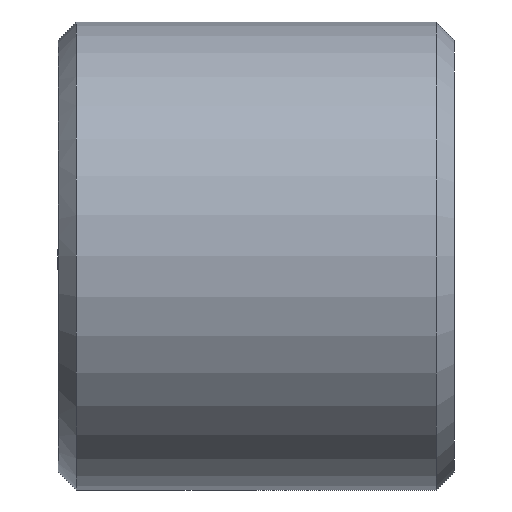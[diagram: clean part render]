
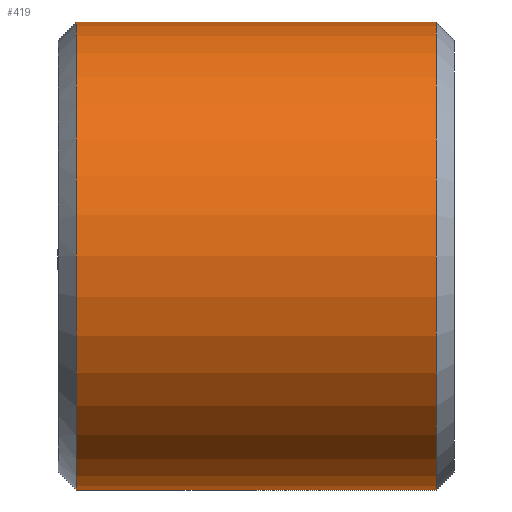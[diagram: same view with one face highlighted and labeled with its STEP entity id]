
A CAD part, front view. The second image highlights one B-rep face of the part: STEP entity #419.
In plain terms, the highlighted cylindrical face has radius 13 mm (diameter 26 mm), a partial arc.
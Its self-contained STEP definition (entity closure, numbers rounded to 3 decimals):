
#231=CARTESIAN_POINT('Vertex',(1.,0.,-13.)) ;
#238=CARTESIAN_POINT('Vertex',(1.,0.,13.)) ;
#267=CARTESIAN_POINT('Axis2P3D Location',(1.,0.,0.)) ;
#271=CARTESIAN_POINT('Vertex',(1.,-13.,0.)) ;
#274=CARTESIAN_POINT('Axis2P3D Location',(1.,0.,0.)) ;
#359=CARTESIAN_POINT('Line Origine',(22.,0.,13.)) ;
#363=CARTESIAN_POINT('Vertex',(21.,0.,13.)) ;
#377=CARTESIAN_POINT('Vertex',(21.,0.,-13.)) ;
#380=CARTESIAN_POINT('Line Origine',(22.,0.,-13.)) ;
#394=CARTESIAN_POINT('Axis2P3D Location',(22.,0.,0.)) ;
#399=CARTESIAN_POINT('Axis2P3D Location',(21.,0.,0.)) ;
#403=CARTESIAN_POINT('Vertex',(21.,-13.,0.)) ;
#406=CARTESIAN_POINT('Axis2P3D Location',(21.,0.,0.)) ;
#268=DIRECTION('Axis2P3D Direction',(1.,0.,-0.)) ;
#275=DIRECTION('Axis2P3D Direction',(1.,0.,-0.)) ;
#360=DIRECTION('Vector Direction',(-1.,0.,0.)) ;
#381=DIRECTION('Vector Direction',(-1.,0.,0.)) ;
#395=DIRECTION('Axis2P3D Direction',(-1.,-0.,-0.)) ;
#396=DIRECTION('Axis2P3D XDirection',(0.,0.,-1.)) ;
#400=DIRECTION('Axis2P3D Direction',(-1.,-0.,-0.)) ;
#407=DIRECTION('Axis2P3D Direction',(-1.,-0.,-0.)) ;
#269=AXIS2_PLACEMENT_3D('Circle Axis2P3D',#267,#268,$) ;
#276=AXIS2_PLACEMENT_3D('Circle Axis2P3D',#274,#275,$) ;
#397=AXIS2_PLACEMENT_3D('Cylinder Axis2P3D',#394,#395,#396) ;
#401=AXIS2_PLACEMENT_3D('Circle Axis2P3D',#399,#400,$) ;
#408=AXIS2_PLACEMENT_3D('Circle Axis2P3D',#406,#407,$) ;
#412=ORIENTED_EDGE('',*,*,#384,.T.) ;
#413=ORIENTED_EDGE('',*,*,#405,.F.) ;
#414=ORIENTED_EDGE('',*,*,#410,.F.) ;
#415=ORIENTED_EDGE('',*,*,#365,.T.) ;
#416=ORIENTED_EDGE('',*,*,#278,.T.) ;
#417=ORIENTED_EDGE('',*,*,#273,.T.) ;
#361=VECTOR('Line Direction',#360,1.) ;
#382=VECTOR('Line Direction',#381,1.) ;
#419=ADVANCED_FACE('352-18X22',(#418),#398,.T.) ;
#270=CIRCLE('generated circle',#269,13.) ;
#277=CIRCLE('generated circle',#276,13.) ;
#402=CIRCLE('generated circle',#401,13.) ;
#409=CIRCLE('generated circle',#408,13.) ;
#398=CYLINDRICAL_SURFACE('generated cylinder',#397,13.) ;
#273=EDGE_CURVE('',#272,#232,#270,.T.) ;
#278=EDGE_CURVE('',#239,#272,#277,.T.) ;
#365=EDGE_CURVE('',#364,#239,#362,.T.) ;
#384=EDGE_CURVE('',#232,#378,#383,.F.) ;
#405=EDGE_CURVE('',#404,#378,#402,.F.) ;
#410=EDGE_CURVE('',#364,#404,#409,.F.) ;
#411=EDGE_LOOP('',(#412,#413,#414,#415,#416,#417)) ;
#418=FACE_OUTER_BOUND('',#411,.T.) ;
#362=LINE('Line',#359,#361) ;
#383=LINE('Line',#380,#382) ;
#232=VERTEX_POINT('',#231) ;
#239=VERTEX_POINT('',#238) ;
#272=VERTEX_POINT('',#271) ;
#364=VERTEX_POINT('',#363) ;
#378=VERTEX_POINT('',#377) ;
#404=VERTEX_POINT('',#403) ;
